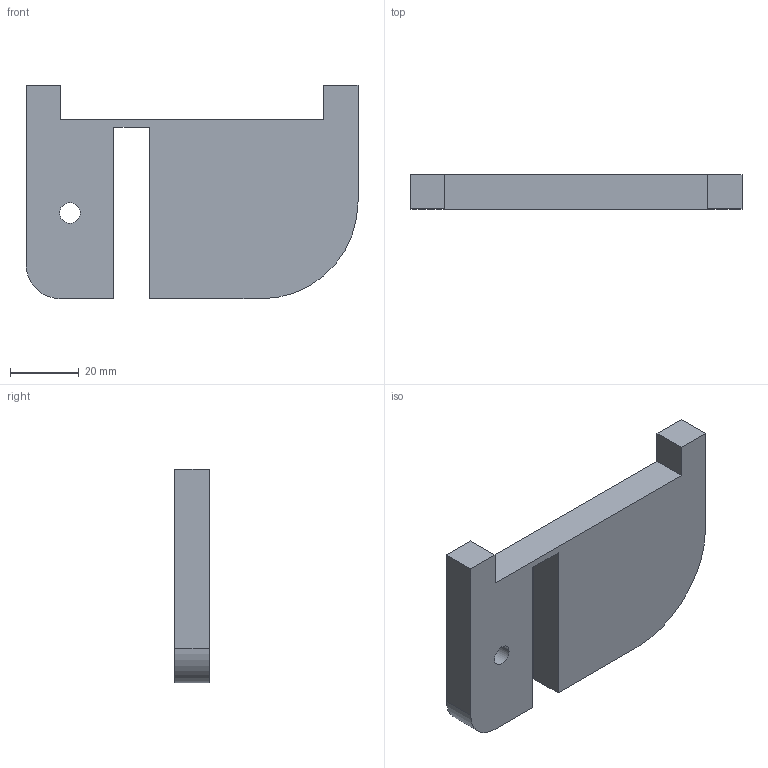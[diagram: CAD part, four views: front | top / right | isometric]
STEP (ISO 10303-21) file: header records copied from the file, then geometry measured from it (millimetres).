
FILE_DESCRIPTION(('CATIA V5 STEP Exchange'),'2;1');
FILE_NAME('C:\Users\gener\Documents\Lijadora Javitxu corte laser\sistema regulacion polea.stp','2022-08-29T05:35:55+00:00',('none'),('none'),'CATIA Version 5 Release 20 GA (IN-10)','CATIA V5 STEP AP203','none');
FILE_SCHEMA(('CONFIG_CONTROL_DESIGN'));
Length unit declared in the file: millimetre
Products named in the file (1): sistema regulacion polea
Bounding box: 96.78 x 10 x 62.24 mm (x, y, z)
Volume: 45148.6 mm3; surface area: 13434.5 mm2
Topology: 1 solids, 1 shells, 18 faces, 48 edges, 32 vertices
Faces by surface type: plane 14, cylinder 4
Entity records: 583 total; most frequent: CARTESIAN_POINT 96, ORIENTED_EDGE 96, DIRECTION 78, EDGE_CURVE 48, VECTOR 40, LINE 40, VERTEX_POINT 32, AXIS2_PLACEMENT_3D 24
